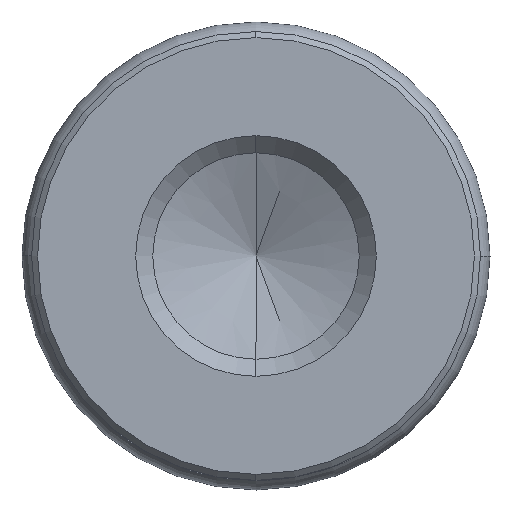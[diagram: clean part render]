
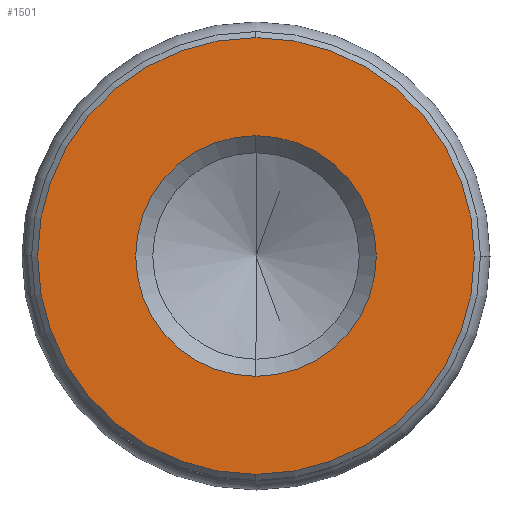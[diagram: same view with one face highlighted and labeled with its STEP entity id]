
A CAD part, left-side view. The second image highlights one B-rep face of the part: STEP entity #1501.
In plain terms, the highlighted planar face has unit normal (-1, 0, 0).
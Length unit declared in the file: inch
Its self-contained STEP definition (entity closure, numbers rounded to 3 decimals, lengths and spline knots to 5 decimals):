
#287 = CIRCLE ( 'NONE', #290, 0.2 ) ;
#288 = CIRCLE ( 'NONE', #292, 0.363 ) ;
#290 = AXIS2_PLACEMENT_3D ( 'NONE', #12367, #12368, #12369 ) ;
#292 = AXIS2_PLACEMENT_3D ( 'NONE', #12372, #12373, #12374 ) ;
#1466 = EDGE_CURVE ( 'NONE', #2572, #2535, #287, .T. ) ;
#1467 = EDGE_CURVE ( 'NONE', #2398, #2619, #288, .T. ) ;
#1501 = ADVANCED_FACE ( 'NONE', ( #12532, #12533 ), #12534, .F. ) ;
#2240 = ORIENTED_EDGE ( 'NONE', *, *, #2977, .T. ) ;
#2241 = ORIENTED_EDGE ( 'NONE', *, *, #1467, .T. ) ;
#2242 = ORIENTED_EDGE ( 'NONE', *, *, #2978, .F. ) ;
#2243 = ORIENTED_EDGE ( 'NONE', *, *, #1466, .F. ) ;
#2398 = VERTEX_POINT ( 'NONE', #6633 ) ;
#2535 = VERTEX_POINT ( 'NONE', #6770 ) ;
#2572 = VERTEX_POINT ( 'NONE', #6807 ) ;
#2619 = VERTEX_POINT ( 'NONE', #6854 ) ;
#2866 = EDGE_LOOP ( 'NONE', ( #2240, #2241 ) ) ;
#2977 = EDGE_CURVE ( 'NONE', #2619, #2398, #6491, .T. ) ;
#2978 = EDGE_CURVE ( 'NONE', #2535, #2572, #6496, .T. ) ;
#3140 = EDGE_LOOP ( 'NONE', ( #2242, #2243 ) ) ;
#6389 = AXIS2_PLACEMENT_3D ( 'NONE', #12528, #12536, #12537 ) ;
#6491 = CIRCLE ( 'NONE', #6497, 0.363 ) ;
#6496 = CIRCLE ( 'NONE', #6499, 0.2 ) ;
#6497 = AXIS2_PLACEMENT_3D ( 'NONE', #7743, #7744, #7745 ) ;
#6499 = AXIS2_PLACEMENT_3D ( 'NONE', #7746, #7747, #7748 ) ;
#6633 = CARTESIAN_POINT ( 'NONE',  ( 0., 0., 0.363 ) ) ;
#6770 = CARTESIAN_POINT ( 'NONE',  ( 0., 0., 0.2 ) ) ;
#6807 = CARTESIAN_POINT ( 'NONE',  ( 0., 0., -0.2 ) ) ;
#6854 = CARTESIAN_POINT ( 'NONE',  ( 0., 0., -0.363 ) ) ;
#7743 = CARTESIAN_POINT ( 'NONE',  ( 0., 0., 0. ) ) ;
#7744 = DIRECTION ( 'NONE',  ( -1., 0., 0. ) ) ;
#7745 = DIRECTION ( 'NONE',  ( 0., 0., -1. ) ) ;
#7746 = CARTESIAN_POINT ( 'NONE',  ( 0., 0., 0. ) ) ;
#7747 = DIRECTION ( 'NONE',  ( -1., 0., 0. ) ) ;
#7748 = DIRECTION ( 'NONE',  ( 0., 0., 1. ) ) ;
#12367 = CARTESIAN_POINT ( 'NONE',  ( 0., 0., 0. ) ) ;
#12368 = DIRECTION ( 'NONE',  ( -1., 0., 0. ) ) ;
#12369 = DIRECTION ( 'NONE',  ( 0., 0., 1. ) ) ;
#12372 = CARTESIAN_POINT ( 'NONE',  ( 0., 0., 0. ) ) ;
#12373 = DIRECTION ( 'NONE',  ( -1., 0., 0. ) ) ;
#12374 = DIRECTION ( 'NONE',  ( 0., 0., -1. ) ) ;
#12528 = CARTESIAN_POINT ( 'NONE',  ( 0., 0., 0. ) ) ;
#12532 = FACE_OUTER_BOUND ( 'NONE', #2866, .T. ) ;
#12533 = FACE_BOUND ( 'NONE', #3140, .T. ) ;
#12534 = PLANE ( 'NONE',  #6389 ) ;
#12536 = DIRECTION ( 'NONE',  ( 1., 0., 0. ) ) ;
#12537 = DIRECTION ( 'NONE',  ( 0., 0., -1. ) ) ;
